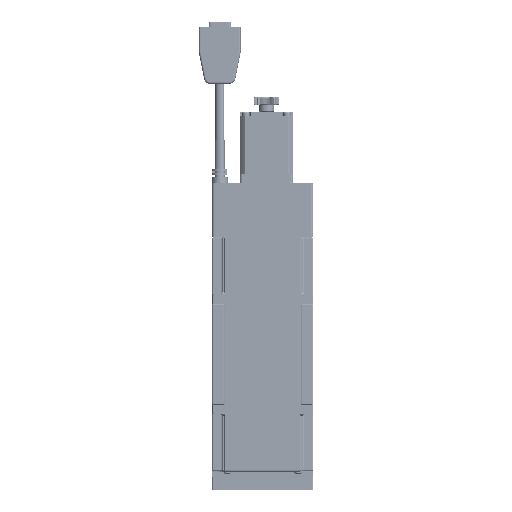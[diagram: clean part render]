
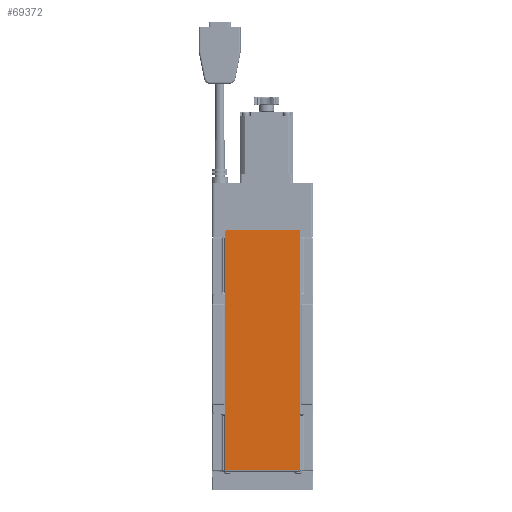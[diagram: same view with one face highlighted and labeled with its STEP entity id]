
A CAD part, top view. The second image highlights one B-rep face of the part: STEP entity #69372.
In plain terms, the highlighted planar face has unit normal (0, 0, 1).
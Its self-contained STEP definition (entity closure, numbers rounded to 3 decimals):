
#157 = DIRECTION ( 'NONE',  ( -1., 0., 0. ) ) ;
#4019 = ORIENTED_EDGE ( 'NONE', *, *, #74159, .T. ) ;
#10656 = LINE ( 'NONE', #64954, #166486 ) ;
#12941 = EDGE_CURVE ( 'NONE', #139934, #175539, #117650, .T. ) ;
#18401 = CARTESIAN_POINT ( 'NONE',  ( 28.5, 206., 29.5 ) ) ;
#23652 = VECTOR ( 'NONE', #115892, 1000. ) ;
#24561 = EDGE_LOOP ( 'NONE', ( #4019, #53231, #57956, #129798, #28016, #68489 ) ) ;
#25076 = PLANE ( 'NONE',  #120935 ) ;
#28016 = ORIENTED_EDGE ( 'NONE', *, *, #158959, .T. ) ;
#34983 = VERTEX_POINT ( 'NONE', #71073 ) ;
#39682 = DIRECTION ( 'NONE',  ( 0., 0., 1. ) ) ;
#39951 = VERTEX_POINT ( 'NONE', #113780 ) ;
#51470 = AXIS2_PLACEMENT_3D ( 'NONE', #145650, #39682, #93082 ) ;
#53231 = ORIENTED_EDGE ( 'NONE', *, *, #142071, .T. ) ;
#54269 = CIRCLE ( 'NONE', #51470, 1. ) ;
#57956 = ORIENTED_EDGE ( 'NONE', *, *, #160032, .T. ) ;
#61594 = CARTESIAN_POINT ( 'NONE',  ( -29.5, 15.737, 29.5 ) ) ;
#64954 = CARTESIAN_POINT ( 'NONE',  ( -29.5, 14., 29.5 ) ) ;
#66021 = DIRECTION ( 'NONE',  ( 0., -1., 0. ) ) ;
#67871 = LINE ( 'NONE', #110553, #124808 ) ;
#68489 = ORIENTED_EDGE ( 'NONE', *, *, #12941, .F. ) ;
#69372 = ADVANCED_FACE ( 'NONE', ( #81995 ), #25076, .F. ) ;
#71073 = CARTESIAN_POINT ( 'NONE',  ( 29.5, 205., 29.5 ) ) ;
#74159 = EDGE_CURVE ( 'NONE', #139934, #34983, #67871, .T. ) ;
#78511 = EDGE_CURVE ( 'NONE', #39951, #162705, #148470, .T. ) ;
#81995 = FACE_OUTER_BOUND ( 'NONE', #24561, .T. ) ;
#93082 = DIRECTION ( 'NONE',  ( 0., -1., 0. ) ) ;
#95390 = CARTESIAN_POINT ( 'NONE',  ( 0., 206., 29.5 ) ) ;
#101637 = DIRECTION ( 'NONE',  ( 0., -1., 0. ) ) ;
#104438 = CARTESIAN_POINT ( 'NONE',  ( -29.5, 15.737, 29.5 ) ) ;
#108818 = CARTESIAN_POINT ( 'NONE',  ( 29.5, 15.737, 29.5 ) ) ;
#110553 = CARTESIAN_POINT ( 'NONE',  ( 29.5, 14., 29.5 ) ) ;
#110899 = CARTESIAN_POINT ( 'NONE',  ( -29.5, 205., 29.5 ) ) ;
#111471 = AXIS2_PLACEMENT_3D ( 'NONE', #156854, #141698, #101637 ) ;
#113780 = CARTESIAN_POINT ( 'NONE',  ( -28.5, 206., 29.5 ) ) ;
#115892 = DIRECTION ( 'NONE',  ( -1., 0., 0. ) ) ;
#117650 = LINE ( 'NONE', #61594, #23652 ) ;
#119239 = DIRECTION ( 'NONE',  ( 0., -1., 0. ) ) ;
#119424 = DIRECTION ( 'NONE',  ( 0., 0., -1. ) ) ;
#120935 = AXIS2_PLACEMENT_3D ( 'NONE', #160394, #119424, #66021 ) ;
#121534 = VECTOR ( 'NONE', #157, 1000. ) ;
#122148 = DIRECTION ( 'NONE',  ( 0., 1., 0. ) ) ;
#124808 = VECTOR ( 'NONE', #122148, 1000. ) ;
#129798 = ORIENTED_EDGE ( 'NONE', *, *, #78511, .T. ) ;
#131478 = VERTEX_POINT ( 'NONE', #18401 ) ;
#139934 = VERTEX_POINT ( 'NONE', #108818 ) ;
#141698 = DIRECTION ( 'NONE',  ( 0., 0., 1. ) ) ;
#142071 = EDGE_CURVE ( 'NONE', #34983, #131478, #54269, .T. ) ;
#145650 = CARTESIAN_POINT ( 'NONE',  ( 28.5, 205., 29.5 ) ) ;
#148470 = CIRCLE ( 'NONE', #111471, 1. ) ;
#151447 = LINE ( 'NONE', #95390, #121534 ) ;
#156854 = CARTESIAN_POINT ( 'NONE',  ( -28.5, 205., 29.5 ) ) ;
#158959 = EDGE_CURVE ( 'NONE', #162705, #175539, #10656, .T. ) ;
#160032 = EDGE_CURVE ( 'NONE', #131478, #39951, #151447, .T. ) ;
#160394 = CARTESIAN_POINT ( 'NONE',  ( 0., 14., 29.5 ) ) ;
#162705 = VERTEX_POINT ( 'NONE', #110899 ) ;
#166486 = VECTOR ( 'NONE', #119239, 1000. ) ;
#175539 = VERTEX_POINT ( 'NONE', #104438 ) ;
